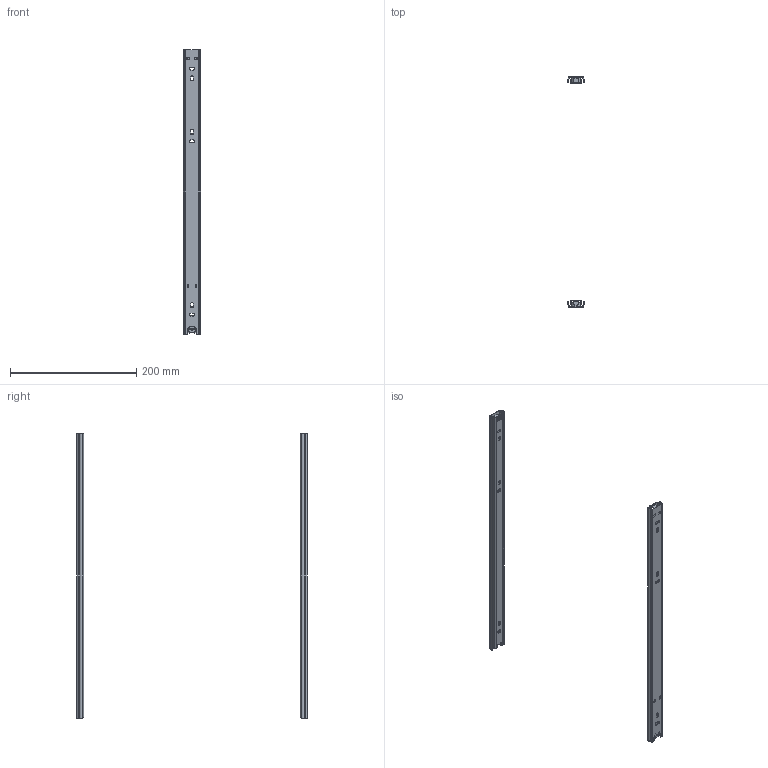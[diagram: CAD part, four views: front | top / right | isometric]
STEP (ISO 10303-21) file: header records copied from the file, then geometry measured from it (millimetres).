
FILE_DESCRIPTION(/* description */ (''),/* implementation_level */ '2;1');
FILE_NAME(/* name */ 'D:\$Workingspace\Designs\Katalog\Cadsoft\GTV Prowadnice\bry\X2\0142\X0\y\PK-0H27-4500.stp',/* time_stamp */ '2016-12-08T12:42:04+01:00',/* author */ ('tomaszw'),/* organization */ (''),/* preprocessor_version */ 'ST-DEVELOPER v16.1',/* originating_system */ 'Autodesk Inventor 2016',/* authorisation */ '');
FILE_SCHEMA (('AUTOMOTIVE_DESIGN { 1 0 10303 214 3 1 1 }'));
Length unit declared in the file: millimetre
Products named in the file (4): Blokada_1; PK-0H27_1-450; PK-0H27_2-450; PK-0H27
Assembly tree (6 placements, depth 2):
  PK-0H27
    Blokada_1  x2
    PK-0H27_1-450  x2
    PK-0H27_2-450  x2
Bounding box: 26.99 x 364 x 450 mm (x, y, z)
Volume: 59300.2 mm3; surface area: 122315.6 mm2
Topology: 6 solids, 6 shells, 318 faces, 912 edges, 604 vertices
Faces by surface type: plane 186, cylinder 132
Entity records: 5643 total; most frequent: CARTESIAN_POINT 1025, ORIENTED_EDGE 912, DIRECTION 912, EDGE_CURVE 456, LINE 318, VECTOR 318, VERTEX_POINT 302, AXIS2_PLACEMENT_3D 297
